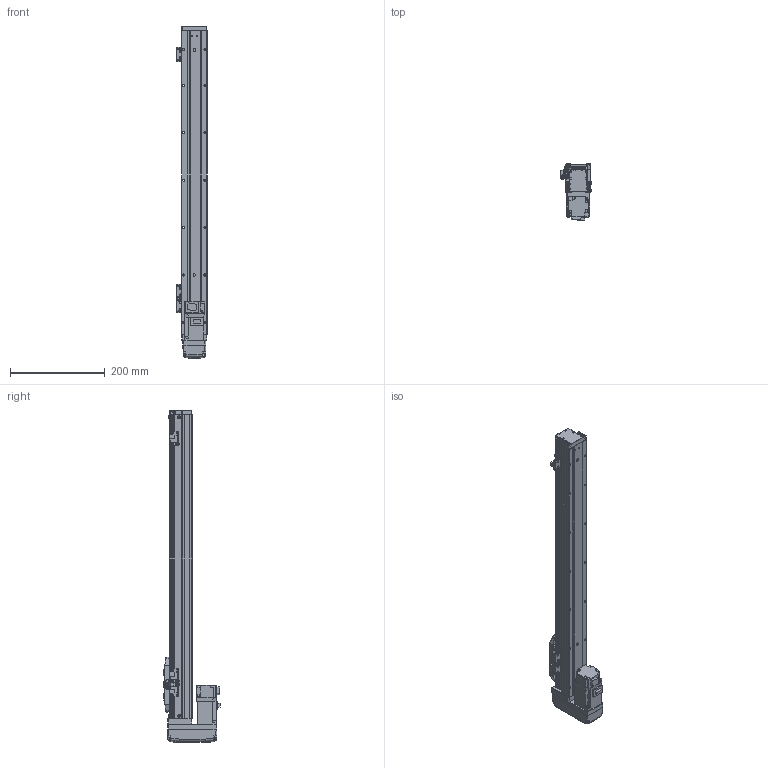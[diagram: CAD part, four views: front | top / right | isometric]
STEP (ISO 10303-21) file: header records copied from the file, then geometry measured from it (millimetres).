
FILE_DESCRIPTION (( 'STEP AP203' ), '1' );
FILE_NAME ('GTH5-500-BM-M10-C4.step', '2022-09-23T00:47:54', ( '微软用户' ), ( '微软中国' ), 'SwSTEP 2.0', 'SolidWorks 2020', '' );
FILE_SCHEMA (( 'CONFIG_CONTROL_DESIGN' ));
Length unit declared in the file: millimetre
Products named in the file (19): GTH50-027-1_BTHA50-027-2; GTH50-003; GTH50-026; GTH50-006; GTH50-013; GTH5-500-BM-M10-C4; GTH50-004; GTH50-023; GBT 70.1-M2.5×6; GBT 70.3-M3℅6; GBT 70.1-M3℅6; GTH50-028; BTH-M3X5X6; GBT96.1-2002 3×0.8; GTH50-022-1; GTH50-001_500; GTH50-024; HG-KR13; GBT 70.1-M4×16
Assembly tree (57 placements, depth 2):
  GTH5-500-BM-M10-C4
    GTH50-006
    GTH50-004
    GBT 70.3-M3℅6  x4
    BTH-M3X5X6  x8
    GTH50-001_500
    GBT 70.1-M4×16  x8
    GTH50-003
    GTH50-013
    GTH50-023  x3
    GBT 70.1-M3℅6  x12
    GBT96.1-2002 3×0.8  x6
    GTH50-024  x3
    GBT 70.1-M2.5×6  x2
    GTH50-028  x2
    GTH50-022-1
    HG-KR13
    GTH50-027-1_BTHA50-027-2
    GTH50-026
Bounding box: 63.8 x 118.9 x 700 mm (x, y, z)
Volume: 1612569.3 mm3; surface area: 280303.5 mm2
Topology: 59 solids, 59 shells, 2156 faces, 5004 edges, 3068 vertices
Faces by surface type: plane 1142, cylinder 585, cone 219, torus 162, bspline 40, sphere 8
Entity records: 40012 total; most frequent: CARTESIAN_POINT 7923, DIRECTION 6157, ORIENTED_EDGE 5922, EDGE_CURVE 2961, AXIS2_PLACEMENT_3D 2140, VECTOR 1877, LINE 1877, VERTEX_POINT 1870
